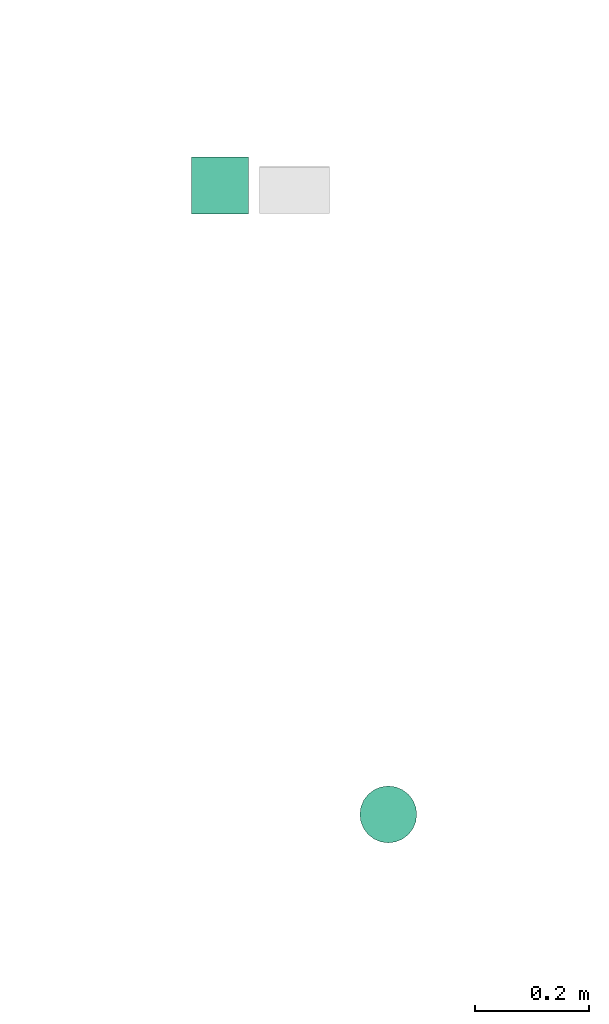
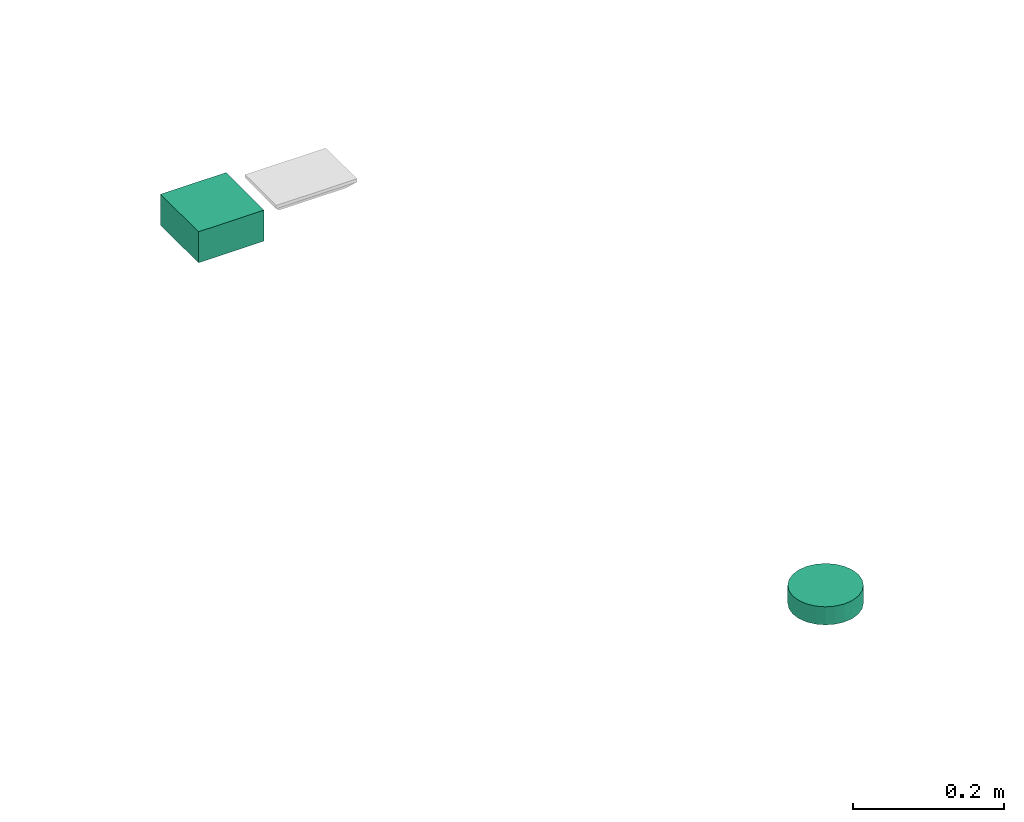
# One storey, part 7 of 14: 1 distribution control element, 1 flow terminal.
"""IFC2X3 building model written with IfcOpenShell, lengths in millimetres."""

from ifc_helpers import new_model, entity, si_unit, converted_unit, derived_unit, direction, frame, origin_with_axes, place, context, subcontext, project, spatial, open_shell, surface_model, source, transform, mapped, type_object, element, save


model = new_model("IFC2X3")

# Units and contexts
model_context = context("Model", 3, precision=0.01, world=frame((0.0, 4.29681676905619e-09, 0.0)), true_north=direction((4.01073788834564e-13, 1.0)))
plan_context = context("Plan", 3, precision=0.01, world=frame((0.0, 4.29681676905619e-09, 0.0)), true_north=direction((4.01073788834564e-13, 1.0)))
body_context = subcontext(model_context, "Body", "Model", "MODEL_VIEW")
ifc_project = project(units=[converted_unit("PLANEANGLEUNIT", "DEGREE", entity("IfcPositiveLengthMeasure", 0.0174532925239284), si_unit("PLANEANGLEUNIT", "RADIAN"), dimensions=[0, 0, 0, 0, 0, 0, 0]), si_unit("AREAUNIT", "SQUARE_METRE"), si_unit("LENGTHUNIT", "METRE", prefix="MILLI"), si_unit("MASSUNIT", "GRAM", prefix="KILO"), si_unit("POWERUNIT", "WATT"), si_unit("PRESSUREUNIT", "PASCAL"), si_unit("FORCEUNIT", "NEWTON", prefix="KILO"), si_unit("ELECTRICVOLTAGEUNIT", "VOLT"), si_unit("ELECTRICCURRENTUNIT", "AMPERE"), si_unit("THERMODYNAMICTEMPERATUREUNIT", "DEGREE_CELSIUS"), si_unit("TIMEUNIT", "SECOND"), si_unit("VOLUMEUNIT", "CUBIC_METRE"), derived_unit("LINEARVELOCITYUNIT", [(si_unit("LENGTHUNIT", "METRE"), 1), (si_unit("TIMEUNIT", "SECOND"), -1)]), derived_unit("VOLUMETRICFLOWRATEUNIT", [(si_unit("VOLUMEUNIT", "CUBIC_METRE"), 1), (si_unit("TIMEUNIT", "SECOND"), -1)]), derived_unit("THERMALTRANSMITTANCEUNIT", [(si_unit("POWERUNIT", "WATT"), 1), (si_unit("THERMODYNAMICTEMPERATUREUNIT", "KELVIN"), -1), (si_unit("AREAUNIT", "SQUARE_METRE"), -1)]), derived_unit("SOUNDPRESSUREUNIT", [(si_unit("PRESSUREUNIT", "PASCAL"), 1)])], contexts=[model_context, plan_context])

# Site, building, storey
site_placement = place(None, frame((0.0, -4.29681676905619e-09, 0.0), z_axis=(0.0, 0.0, 1.0), x_axis=(1.0, 0.0, 0.0)))
site = spatial("IfcSite", under=ifc_project, at=site_placement, Name="ENGM", CompositionType="ELEMENT")
building_placement = place(site_placement, frame((0.0, 4.29681676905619e-09, 0.0), z_axis=(0.0, 0.0, 1.0), x_axis=(1.0, 0.0, 0.0)))
building = spatial("IfcBuilding", under=site, at=building_placement, Name="TH", CompositionType="ELEMENT")
storey_placement = place(building_placement, frame((0.0, 0.0, 205200.0), z_axis=(0.0, 0.0, 1.0), x_axis=(1.0, 0.0, 0.0)))
storey = spatial("IfcBuildingStorey", under=building, at=storey_placement, Name="Nivå D + 1,2 m", CompositionType="ELEMENT", Elevation=205200.0)

# Distribution control element
alarm_type = type_object("IfcAlarmType", Name="Optisk Røykdetektor", PredefinedType="NOTDEFINED")
shared_shape_1 = source(origin_with_axes(), body_context, "Body", "SurfaceModel", [
    surface_model("IfcShellBasedSurfaceModel", [(-25.0, 43.30127, -28.9), (-35.35534, 35.35534, -28.9), (-18.0, 31.17691, -28.9), (-25.45584, 25.45584, -28.9), (-9.31749, 34.77333, -28.9), (-12.94095, 48.29629, -28.9), (0.0, 36.0, -28.9), (0.0, 50.0, -28.9), (-34.77333, 9.31749, -28.9), (-43.30127, 25.0, -28.9), (-48.29629, 12.94095, -28.9), (-36.0, 0.0, -28.9), (-50.0, 0.0, -28.9), (-31.17691, 18.0, -28.9), (9.31749, 34.77333, -28.9), (12.94095, 48.29629, -28.9), (18.0, 31.17691, -28.9), (35.35534, 35.35534, -28.9), (25.0, 43.30127, -28.9), (25.45584, 25.45584, -28.9), (31.17691, 18.0, -28.9), (34.77333, 9.31749, -28.9), (43.30127, 25.0, -28.9), (48.29629, 12.94095, -28.9), (36.0, 0.0, -28.9), (50.0, 0.0, -28.9), (-34.77333, -9.31749, -28.9), (-48.29629, -12.94095, -28.9), (-31.17691, -18.0, -28.9), (-43.30127, -25.0, -28.9), (-25.45584, -25.45584, -28.9), (-35.35534, -35.35534, -28.9), (-18.0, -31.17691, -28.9), (-25.0, -43.30127, -28.9), (-9.31749, -34.77333, -28.9), (-12.94095, -48.29629, -28.9), (0.0, -36.0, -28.9), (0.0, -50.0, -28.9), (43.30127, -25.0, -28.9), (31.17691, -18.0, -28.9), (35.35534, -35.35534, -28.9), (34.77333, -9.31749, -28.9), (48.29629, -12.94095, -28.9), (25.45584, -25.45584, -28.9), (9.31749, -34.77333, -28.9), (12.94095, -48.29629, -28.9), (18.0, -31.17691, -28.9), (25.0, -43.30127, -28.9), (-25.0, -43.30127, -29.1), (-35.35534, -35.35534, -29.1), (-18.0, -31.17691, -29.1), (-25.45584, -25.45584, -29.1), (-9.31749, -34.77333, -29.1), (-12.94095, -48.29629, -29.1), (0.0, -36.0, -29.1), (0.0, -50.0, -29.1), (-34.77333, -9.31749, -29.1), (-43.30127, -25.0, -29.1), (-48.29629, -12.94095, -29.1), (-36.0, 0.0, -29.1), (-50.0, 0.0, -29.1), (-31.17691, -18.0, -29.1), (9.31749, -34.77333, -29.1), (12.94095, -48.29629, -29.1), (18.0, -31.17691, -29.1), (35.35534, -35.35534, -29.1), (25.0, -43.30127, -29.1), (25.45584, -25.45584, -29.1), (31.17691, -18.0, -29.1), (34.77333, -9.31749, -29.1), (43.30127, -25.0, -29.1), (48.29629, -12.94095, -29.1), (36.0, 0.0, -29.1), (50.0, 0.0, -29.1), (-34.77333, 9.31749, -29.1), (-48.29629, 12.94095, -29.1), (-31.17691, 18.0, -29.1), (-43.30127, 25.0, -29.1), (-25.45584, 25.45584, -29.1), (-35.35534, 35.35534, -29.1), (-18.0, 31.17691, -29.1), (-25.0, 43.30127, -29.1), (-9.31749, 34.77333, -29.1), (-12.94095, 48.29629, -29.1), (0.0, 36.0, -29.1), (0.0, 50.0, -29.1), (43.30127, 25.0, -29.1), (31.17691, 18.0, -29.1), (35.35534, 35.35534, -29.1), (34.77333, 9.31749, -29.1), (48.29629, 12.94095, -29.1), (25.45584, 25.45584, -29.1), (9.31749, 34.77333, -29.1), (12.94095, 48.29629, -29.1), (18.0, 31.17691, -29.1), (25.0, 43.30127, -29.1), (6.47048, -24.14815, -44.9), (12.5, -21.65064, -44.9), (17.67767, -17.67767, -44.9), (24.14815, -6.47048, -44.9), (-24.14815, -6.47048, -44.9), (21.65064, -12.5, -44.9), (-21.65064, 12.5, -44.9), (0.0, -25.0, -44.9), (-12.5, -21.65064, -44.9), (-6.47048, -24.14815, -44.9), (-17.67767, -17.67767, -44.9), (-21.65064, -12.5, -44.9), (25.0, 0.0, -44.9), (24.14815, 6.47048, -44.9), (21.65064, 12.5, -44.9), (17.67767, 17.67767, -44.9), (12.5, 21.65064, -44.9), (6.47048, 24.14815, -44.9), (0.0, 25.0, -44.9), (-25.0, 0.0, -44.9), (-24.14815, 6.47048, -44.9), (-12.5, 21.65064, -44.9), (-17.67767, 17.67767, -44.9), (-6.47048, 24.14815, -44.9), (0.0, 25.0, -45.1), (6.47048, 24.14815, -45.1), (12.5, 21.65064, -45.1), (-21.65064, 12.5, -45.1), (17.67767, 17.67767, -45.1), (21.65064, 12.5, -45.1), (24.14815, 6.47048, -45.1), (-12.5, 21.65064, -45.1), (-17.67767, 17.67767, -45.1), (-6.47048, 24.14815, -45.1), (-25.0, 0.0, -45.1), (-24.14815, 6.47048, -45.1), (-24.14815, -6.47048, -45.1), (24.14815, -6.47048, -45.1), (6.47048, -24.14815, -45.1), (21.65064, -12.5, -45.1), (17.67767, -17.67767, -45.1), (12.5, -21.65064, -45.1), (-12.5, -21.65064, -45.1), (-17.67767, -17.67767, -45.1), (-21.65064, -12.5, -45.1), (0.0, -25.0, -45.1), (-6.47048, -24.14815, -45.1), (25.0, 0.0, -45.1), (-1.46739, 34.60682, -29.0), (0.0, 34.8, -29.0), (0.0, 35.0, -29.0), (-34.60682, 1.46739, -29.0), (-35.0, 0.0, -29.0), (-34.8, 0.0, -29.0), (-17.5, 30.31089, -29.0), (-18.5742, 29.23669, -29.0), (-17.4, 30.13768, -29.0), (-24.60732, -24.60732, -29.0), (-18.5742, -29.23669, -29.0), (-29.23669, -18.5742, -29.0), (34.8, 0.0, -29.0), (34.60682, -1.46739, -29.0), (35.0, 0.0, -29.0), (17.4, 30.13768, -29.0), (17.5, 30.31089, -29.0), (16.03261, 30.70407, -29.0), (30.13768, 17.4, -29.0), (30.31089, 17.5, -29.0), (29.23669, 18.5742, -29.0), (34.60682, 1.46739, -29.0), (33.61422, -9.0069, -29.0), (30.70407, -16.03261, -29.0), (-33.61422, -9.0069, -29.0), (-30.70407, -16.03261, -29.0), (-34.60682, -1.46739, -29.0), (-30.13768, -17.4, -29.0), (-30.31089, -17.5, -29.0), (-17.5, -30.31089, -29.0), (-17.4, -30.13768, -29.0), (-1.46739, -34.60682, -29.0), (0.0, -35.0, -29.0), (0.0, -34.8, -29.0), (-16.03261, -30.70407, -29.0), (-9.0069, -33.61422, -29.0), (1.46739, -34.60682, -29.0), (30.13768, -17.4, -29.0), (29.23669, -18.5742, -29.0), (30.31089, -17.5, -29.0), (24.60732, -24.60732, -29.0), (18.5742, -29.23669, -29.0), (9.0069, -33.61422, -29.0), (16.03261, -30.70407, -29.0), (-30.13768, 17.4, -29.0), (-30.31089, 17.5, -29.0), (-30.70407, 16.03261, -29.0), (17.4, -30.13768, -29.0), (17.5, -30.31089, -29.0), (-33.61422, 9.0069, -29.0), (-29.23669, 18.5742, -29.0), (-24.60732, 24.60732, -29.0), (-16.03261, 30.70407, -29.0), (-9.0069, 33.61422, -29.0), (1.46739, 34.60682, -29.0), (9.0069, 33.61422, -29.0), (18.5742, 29.23669, -29.0), (24.60732, 24.60732, -29.0), (30.70407, 16.03261, -29.0), (33.61422, 9.0069, -29.0), (23.00389, 18.55381, -38.25), (14.9, 25.80756, -38.25), (21.07178, 21.07178, -38.25), (29.66376, 1.03484, -38.25), (30.0, 0.0, -38.25), (29.8, 0.0, -38.25), (24.27051, 17.63356, -38.25), (24.68215, 16.36666, -38.25), (10.52665, 27.61906, -38.25), (28.78459, 7.71281, -38.25), (-10.52665, 27.61906, -38.25), (-23.00389, 18.55381, -38.25), (-14.9, 25.80756, -38.25), (8.32335, 28.5317, -38.25), (0.0, 29.8, -38.25), (7.71281, 28.78459, -38.25), (-8.32335, 28.5317, -38.25), (-24.68215, 16.36666, -38.25), (-28.78459, 7.71281, -38.25), (-25.80756, 14.9, -38.25), (-9.27051, 28.5317, -38.25), (-29.66376, 1.03484, -38.25), (-29.8, 0.0, -38.25), (-30.0, 0.0, -38.25), (-28.78459, -7.71281, -38.25), (-24.68215, -16.36666, -38.25), (-25.80756, -14.9, -38.25), (29.66376, -1.03484, -38.25), (-7.71281, 28.78459, -38.25), (25.80756, 14.9, -38.25), (14.9, -25.80756, -38.25), (10.52665, -27.61906, -38.25), (23.00389, -18.55381, -38.25), (28.78459, -7.71281, -38.25), (24.68215, -16.36666, -38.25), (0.0, -29.8, -38.25), (-7.71281, -28.78459, -38.25), (-8.32335, -28.5317, -38.25), (8.32335, -28.5317, -38.25), (9.27051, 28.5317, -38.25), (-29.66376, -1.03484, -38.25), (21.07178, -21.07178, -38.25), (-23.00389, -18.55381, -38.25), (-24.27051, -17.63356, -38.25), (-9.27051, -28.5317, -38.25), (-10.52665, -27.61906, -38.25), (-21.07178, -21.07178, -38.25), (-14.9, -25.80756, -38.25), (9.27051, -28.5317, -38.25), (7.71281, -28.78459, -38.25), (24.27051, -17.63356, -38.25), (25.80756, -14.9, -38.25), (-21.07178, 21.07178, -38.25), (-24.27051, 17.63356, -38.25), (33.28589, -6.39713, -29.0), (27.13526, -8.81678, -38.25), (-16.77051, -23.08263, -38.25), (-23.90544, -23.90544, -29.0), (-27.13526, -8.81678, -38.25), (-33.28589, -6.39713, -29.0), (16.77051, -23.08263, -38.25), (8.75, -32.65544, -29.0), (0.0, -28.5317, -38.25), (23.90544, -23.90544, -29.0), (-8.75, -32.65544, -29.0), (-33.28589, 6.39713, -29.0), (-27.13526, 8.81678, -38.25), (16.77051, 23.08263, -38.25), (23.90544, 23.90544, -29.0), (27.13526, 8.81678, -38.25), (33.28589, 6.39713, -29.0), (-16.77051, 23.08263, -38.25), (-8.75, 32.65544, -29.0), (0.0, 28.5317, -38.25), (-23.90544, 23.90544, -29.0), (8.75, 32.65544, -29.0), (12.4, 21.47743, -45.0), (17.53625, 17.53625, -45.0), (19.07577, 15.5299, -45.0), (20.22543, 14.69463, -45.0), (20.59905, 13.54472, -45.0), (24.66376, 1.03484, -45.0), (25.0, 0.0, -45.0), (24.8, 0.0, -45.0), (8.88673, 22.93267, -45.0), (23.95496, 6.41871, -45.0), (-8.88673, 22.93267, -45.0), (-19.07577, 15.5299, -45.0), (-12.4, 21.47743, -45.0), (6.84976, 23.77641, -45.0), (0.0, 24.8, -45.0), (6.41871, 23.95496, -45.0), (-7.72542, 23.77641, -45.0), (-6.84976, 23.77641, -45.0), (-21.47743, 12.4, -45.0), (-20.59905, 13.54472, -45.0), (-23.95496, 6.41871, -45.0), (-25.0, 0.0, -45.0), (-24.66376, 1.03484, -45.0), (-24.8, 0.0, -45.0), (-23.95496, -6.41871, -45.0), (-20.59905, -13.54472, -45.0), (-21.47743, -12.4, -45.0), (-6.41871, 23.95496, -45.0), (24.66376, -1.03484, -45.0), (21.47743, 12.4, -45.0), (12.4, -21.47743, -45.0), (8.88673, -22.93267, -45.0), (19.07577, -15.5299, -45.0), (23.95496, -6.41871, -45.0), (20.59905, -13.54472, -45.0), (0.0, -24.8, -45.0), (-6.41871, -23.95496, -45.0), (-6.84976, -23.77641, -45.0), (7.72542, -23.77641, -45.0), (6.84976, -23.77641, -45.0), (7.72542, 23.77641, -45.0), (-24.66376, -1.03484, -45.0), (17.53625, -17.53625, -45.0), (-20.22543, -14.69463, -45.0), (-19.07577, -15.5299, -45.0), (-8.88673, -22.93267, -45.0), (-7.72542, -23.77641, -45.0), (-17.53625, -17.53625, -45.0), (-12.4, -21.47743, -45.0), (6.41871, -23.95496, -45.0), (20.22543, -14.69463, -45.0), (21.47743, -12.4, -45.0), (-17.53625, 17.53625, -45.0), (-20.22543, 14.69463, -45.0), (-22.61271, -7.34732, -45.0), (-13.97542, -19.23552, -45.0), (0.0, -23.77641, -45.0), (21.83768, -9.73262, -45.0), (13.97542, -19.23552, -45.0), (23.41884, -4.86631, -45.0), (22.61271, 7.34732, -45.0), (13.97542, 19.23552, -45.0), (0.0, 23.77641, -45.0), (-21.83768, 9.73262, -45.0), (-13.97542, 19.23552, -45.0), (-23.41884, 4.86631, -45.0), (12.94095, -48.29629, 0.0), (25.0, -43.30127, 0.0), (35.35534, -35.35534, 0.0), (48.29629, -12.94095, 0.0), (-48.29629, -12.94095, 0.0), (43.30127, -25.0, 0.0), (-43.30127, 25.0, 0.0), (0.0, -50.0, 0.0), (-25.0, -43.30127, 0.0), (-12.94095, -48.29629, 0.0), (-35.35534, -35.35534, 0.0), (-43.30127, -25.0, 0.0), (50.0, 0.0, 0.0), (48.29629, 12.94095, 0.0), (43.30127, 25.0, 0.0), (35.35534, 35.35534, 0.0), (25.0, 43.30127, 0.0), (12.94095, 48.29629, 0.0), (0.0, 50.0, 0.0), (-50.0, 0.0, 0.0), (-48.29629, 12.94095, 0.0), (-25.0, 43.30127, 0.0), (-35.35534, 35.35534, 0.0), (-12.94095, 48.29629, 0.0), (0.0, 50.0, -29.0), (12.94095, 48.29629, -29.0), (25.0, 43.30127, -29.0), (-43.30127, 25.0, -29.0), (35.35534, 35.35534, -29.0), (43.30127, 25.0, -29.0), (48.29629, 12.94095, -29.0), (-25.0, 43.30127, -29.0), (-35.35534, 35.35534, -29.0), (-12.94095, 48.29629, -29.0), (-50.0, 0.0, -29.0), (-48.29629, 12.94095, -29.0), (-48.29629, -12.94095, -29.0), (48.29629, -12.94095, -29.0), (12.94095, -48.29629, -29.0), (43.30127, -25.0, -29.0), (35.35534, -35.35534, -29.0), (25.0, -43.30127, -29.0), (-25.0, -43.30127, -29.0), (-35.35534, -35.35534, -29.0), (-43.30127, -25.0, -29.0), (0.0, -50.0, -29.0), (-12.94095, -48.29629, -29.0), (50.0, 0.0, -29.0)], [open_shell([[[0, 1, 2]], [[2, 1, 3]], [[0, 2, 4]], [[5, 4, 6]], [[4, 5, 0]], [[5, 6, 7]], [[8, 9, 10]], [[11, 10, 12]], [[8, 10, 11]], [[13, 3, 9]], [[8, 13, 9]], [[9, 3, 1]], [[7, 14, 15]], [[14, 7, 6]], [[15, 14, 16]], [[17, 18, 19]], [[16, 18, 15]], [[19, 18, 16]], [[20, 21, 22]], [[20, 22, 17]], [[21, 23, 22]], [[23, 21, 24]], [[23, 24, 25]], [[20, 17, 19]], [[26, 12, 27]], [[28, 27, 29]], [[28, 26, 27]], [[30, 28, 29]], [[29, 31, 30]], [[32, 31, 33]], [[31, 32, 30]], [[32, 33, 34]], [[34, 35, 36]], [[35, 34, 33]], [[36, 35, 37]], [[38, 39, 40]], [[41, 39, 42]], [[41, 42, 25]], [[42, 39, 38]], [[39, 43, 40]], [[25, 24, 41]], [[44, 37, 45]], [[37, 44, 36]], [[44, 45, 46]], [[47, 40, 43]], [[47, 46, 45]], [[47, 43, 46]], [[26, 11, 12]], [[48, 49, 50]], [[50, 49, 51]], [[48, 50, 52]], [[53, 52, 54]], [[52, 53, 48]], [[53, 54, 55]], [[56, 57, 58]], [[59, 58, 60]], [[56, 58, 59]], [[61, 51, 57]], [[56, 61, 57]], [[57, 51, 49]], [[55, 62, 63]], [[62, 55, 54]], [[63, 62, 64]], [[65, 66, 67]], [[64, 66, 63]], [[67, 66, 64]], [[68, 69, 70]], [[68, 70, 65]], [[69, 71, 70]], [[71, 69, 72]], [[71, 72, 73]], [[68, 65, 67]], [[74, 60, 75]], [[76, 75, 77]], [[76, 74, 75]], [[78, 76, 77]], [[77, 79, 78]], [[80, 79, 81]], [[79, 80, 78]], [[80, 81, 82]], [[82, 83, 84]], [[83, 82, 81]], [[84, 83, 85]], [[86, 87, 88]], [[89, 87, 90]], [[89, 90, 73]], [[90, 87, 86]], [[87, 91, 88]], [[73, 72, 89]], [[92, 85, 93]], [[85, 92, 84]], [[92, 93, 94]], [[95, 88, 91]], [[95, 94, 93]], [[95, 91, 94]], [[74, 59, 60]], [[11, 59, 8]], [[8, 74, 13]], [[2, 3, 78]], [[76, 3, 13]], [[4, 2, 80]], [[74, 76, 13]], [[8, 59, 74]], [[84, 6, 82]], [[4, 80, 82]], [[80, 2, 78]], [[3, 76, 78]], [[4, 82, 6]], [[14, 92, 16]], [[16, 94, 19]], [[21, 20, 87]], [[91, 20, 19]], [[24, 21, 89]], [[92, 94, 16]], [[14, 84, 92]], [[21, 87, 89]], [[87, 20, 91]], [[19, 94, 91]], [[24, 89, 72]], [[6, 84, 14]], [[24, 72, 41]], [[41, 69, 39]], [[46, 43, 67]], [[68, 43, 39]], [[44, 46, 64]], [[69, 68, 39]], [[41, 72, 69]], [[54, 36, 62]], [[44, 64, 62]], [[64, 46, 67]], [[43, 68, 67]], [[44, 62, 36]], [[34, 52, 32]], [[32, 50, 30]], [[26, 28, 61]], [[51, 28, 30]], [[11, 26, 56]], [[52, 50, 32]], [[34, 54, 52]], [[26, 61, 56]], [[61, 28, 51]], [[30, 50, 51]], [[11, 56, 59]], [[36, 54, 34]], [[58, 27, 60]], [[57, 29, 58]], [[33, 49, 48]], [[57, 49, 31]], [[35, 48, 53]], [[58, 29, 27]], [[27, 12, 60]], [[35, 33, 48]], [[31, 49, 33]], [[31, 29, 57]], [[37, 35, 53]], [[53, 55, 37]], [[63, 45, 55]], [[66, 47, 63]], [[38, 65, 70]], [[66, 65, 40]], [[42, 70, 71]], [[66, 40, 47]], [[47, 45, 63]], [[25, 42, 71]], [[38, 70, 42]], [[38, 40, 65]], [[73, 25, 71]], [[55, 45, 37]], [[90, 23, 73]], [[86, 22, 90]], [[18, 88, 95]], [[86, 88, 17]], [[15, 95, 93]], [[90, 22, 23]], [[23, 25, 73]], [[15, 18, 95]], [[17, 88, 18]], [[17, 22, 86]], [[7, 15, 93]], [[93, 85, 7]], [[83, 5, 85]], [[81, 0, 83]], [[9, 79, 77]], [[81, 79, 1]], [[10, 77, 75]], [[81, 1, 0]], [[0, 5, 83]], [[12, 10, 75]], [[9, 77, 10]], [[9, 1, 79]], [[60, 12, 75]], [[85, 5, 7]], [[96, 97, 98]], [[96, 98, 99]], [[96, 99, 100]], [[99, 98, 101]], [[102, 100, 99]], [[103, 104, 105]], [[103, 96, 104]], [[106, 100, 107]], [[106, 104, 96]], [[100, 106, 96]], [[99, 108, 102]], [[109, 110, 111]], [[109, 111, 112]], [[112, 113, 114]], [[109, 112, 102]], [[102, 112, 114]], [[115, 102, 116]], [[100, 102, 115]], [[102, 117, 118]], [[117, 102, 119]], [[114, 119, 102]], [[102, 108, 109]], [[120, 121, 122]], [[123, 120, 122]], [[124, 125, 126]], [[124, 126, 122]], [[123, 122, 126]], [[127, 123, 128]], [[123, 127, 129]], [[123, 130, 131]], [[123, 129, 120]], [[123, 132, 130]], [[123, 126, 133]], [[132, 123, 133]], [[134, 133, 135]], [[136, 137, 134]], [[136, 134, 135]], [[138, 133, 134]], [[132, 139, 140]], [[132, 133, 139]], [[138, 141, 142]], [[139, 133, 138]], [[134, 141, 138]], [[133, 126, 143]], [[132, 100, 130]], [[140, 107, 132]], [[104, 139, 138]], [[140, 139, 106]], [[105, 138, 142]], [[132, 107, 100]], [[100, 115, 130]], [[105, 104, 138]], [[106, 139, 104]], [[106, 107, 140]], [[103, 105, 142]], [[142, 141, 103]], [[134, 96, 141]], [[137, 97, 134]], [[101, 136, 135]], [[137, 136, 98]], [[99, 135, 133]], [[137, 98, 97]], [[97, 96, 134]], [[108, 99, 133]], [[101, 135, 99]], [[101, 98, 136]], [[143, 108, 133]], [[141, 96, 103]], [[126, 109, 143]], [[125, 110, 126]], [[112, 124, 122]], [[125, 124, 111]], [[113, 122, 121]], [[126, 110, 109]], [[109, 108, 143]], [[113, 112, 122]], [[111, 124, 112]], [[111, 110, 125]], [[114, 113, 121]], [[121, 120, 114]], [[129, 119, 120]], [[127, 117, 129]], [[102, 128, 123]], [[127, 128, 118]], [[116, 123, 131]], [[127, 118, 117]], [[117, 119, 129]], [[115, 116, 131]], [[102, 123, 116]], [[102, 118, 128]], [[130, 115, 131]], [[120, 119, 114]], [[144, 145, 146]], [[147, 148, 149]], [[150, 151, 152]], [[153, 154, 155]], [[156, 157, 158]], [[159, 160, 161]], [[162, 163, 164]], [[156, 158, 165]], [[166, 157, 167]], [[168, 169, 170]], [[170, 149, 148]], [[171, 169, 172]], [[173, 174, 154]], [[175, 176, 177]], [[174, 173, 178]], [[155, 171, 172]], [[179, 175, 178]], [[180, 177, 176]], [[181, 182, 183]], [[181, 183, 167]], [[184, 182, 185]], [[186, 187, 180]], [[188, 189, 190]], [[191, 192, 185]], [[191, 187, 192]], [[193, 147, 190]], [[188, 194, 189]], [[195, 194, 151]], [[152, 196, 150]], [[197, 196, 144]], [[145, 198, 146]], [[199, 198, 161]], [[159, 200, 160]], [[201, 200, 164]], [[162, 202, 163]], [[203, 202, 165]], [[204, 205, 206]], [[207, 208, 209]], [[204, 210, 211]], [[205, 204, 212]], [[213, 207, 211]], [[214, 215, 216]], [[217, 218, 219]], [[218, 217, 220]], [[221, 222, 223]], [[220, 214, 224]], [[225, 226, 227]], [[228, 229, 230]], [[209, 208, 231]], [[218, 220, 232]], [[213, 211, 233]], [[234, 235, 236]], [[237, 238, 231]], [[239, 240, 241]], [[241, 242, 239]], [[243, 212, 217]], [[227, 226, 244]], [[234, 236, 245]], [[229, 246, 247]], [[241, 248, 249]], [[250, 246, 251]], [[228, 244, 229]], [[235, 252, 242]], [[239, 242, 253]], [[236, 238, 254]], [[238, 237, 255]], [[251, 246, 249]], [[216, 215, 256]], [[215, 221, 257]], [[222, 221, 225]], [[208, 158, 258]], [[183, 259, 258]], [[260, 261, 247]], [[172, 262, 247]], [[263, 227, 262]], [[192, 252, 264]], [[260, 248, 173]], [[261, 260, 173]], [[252, 265, 266]], [[227, 263, 148]], [[172, 263, 262]], [[258, 259, 208]], [[254, 267, 264]], [[268, 173, 248]], [[252, 192, 265]], [[192, 264, 267]], [[267, 254, 183]], [[259, 183, 254]], [[268, 266, 176]], [[265, 176, 266]], [[248, 266, 268]], [[172, 247, 261]], [[227, 148, 269]], [[189, 270, 269]], [[271, 272, 210]], [[163, 273, 210]], [[274, 208, 273]], [[150, 224, 275]], [[271, 243, 160]], [[272, 271, 160]], [[224, 276, 277]], [[208, 274, 158]], [[163, 274, 273]], [[269, 270, 227]], [[257, 278, 275]], [[279, 160, 243]], [[224, 150, 276]], [[150, 275, 278]], [[278, 257, 189]], [[270, 189, 257]], [[279, 277, 146]], [[276, 146, 277]], [[243, 277, 279]], [[163, 210, 272]], [[171, 230, 228]], [[168, 228, 226]], [[179, 240, 251]], [[174, 251, 250]], [[153, 250, 230]], [[168, 171, 228]], [[226, 149, 168]], [[251, 174, 179]], [[174, 250, 153]], [[230, 171, 153]], [[240, 179, 177]], [[177, 239, 240]], [[184, 245, 234]], [[191, 234, 253]], [[156, 209, 237]], [[166, 237, 255]], [[181, 255, 245]], [[239, 186, 253]], [[186, 191, 253]], [[177, 186, 239]], [[184, 181, 245]], [[191, 184, 234]], [[181, 166, 255]], [[166, 156, 237]], [[162, 233, 213]], [[203, 213, 209]], [[199, 219, 205]], [[159, 205, 206]], [[201, 206, 233]], [[203, 162, 213]], [[209, 156, 203]], [[205, 159, 199]], [[159, 206, 201]], [[233, 162, 201]], [[219, 199, 145]], [[145, 218, 219]], [[195, 256, 216]], [[152, 216, 232]], [[149, 226, 222]], [[193, 222, 223]], [[188, 223, 256]], [[218, 197, 232]], [[197, 152, 232]], [[145, 197, 218]], [[195, 188, 256]], [[152, 195, 216]], [[188, 193, 223]], [[193, 149, 222]], [[215, 216, 256]], [[221, 222, 225]], [[225, 227, 226]], [[257, 221, 215]], [[216, 215, 214]], [[212, 204, 205]], [[220, 218, 232]], [[218, 220, 217]], [[217, 212, 243]], [[233, 211, 213]], [[208, 207, 209]], [[237, 238, 255]], [[252, 235, 242]], [[218, 217, 219]], [[227, 244, 226]], [[222, 221, 223]], [[228, 229, 244]], [[239, 253, 242]], [[246, 251, 249]], [[249, 248, 241]], [[231, 238, 237]], [[208, 209, 231]], [[251, 246, 250]], [[254, 238, 236]], [[236, 234, 245]], [[214, 220, 224]], [[242, 241, 239]], [[239, 241, 240]], [[246, 229, 247]], [[230, 229, 228]], [[234, 236, 235]], [[205, 204, 206]], [[204, 211, 210]], [[213, 211, 207]], [[280, 281, 282]], [[282, 283, 284]], [[285, 286, 287]], [[280, 282, 288]], [[289, 285, 284]], [[290, 291, 292]], [[293, 294, 295]], [[290, 296, 297]], [[294, 293, 297]], [[298, 299, 300]], [[301, 302, 303]], [[304, 305, 306]], [[294, 297, 307]], [[308, 287, 286]], [[289, 284, 309]], [[310, 311, 312]], [[313, 314, 308]], [[315, 316, 317]], [[311, 318, 319]], [[293, 320, 288]], [[301, 303, 321]], [[310, 312, 322]], [[323, 305, 324]], [[325, 317, 326]], [[327, 324, 328]], [[304, 321, 305]], [[317, 319, 315]], [[315, 319, 329]], [[312, 314, 330]], [[331, 314, 313]], [[328, 324, 325]], [[292, 291, 332]], [[291, 299, 333]], [[300, 299, 302]], [[262, 301, 334]], [[334, 323, 247]], [[248, 335, 326]], [[301, 262, 227]], [[334, 247, 262]], [[260, 323, 335]], [[266, 248, 326]], [[336, 252, 266]], [[252, 336, 318]], [[323, 260, 247]], [[248, 260, 335]], [[254, 337, 259]], [[318, 264, 252]], [[338, 254, 264]], [[339, 286, 208]], [[264, 318, 338]], [[259, 339, 208]], [[338, 330, 254]], [[266, 326, 336]], [[259, 337, 339]], [[337, 254, 330]], [[273, 286, 340]], [[340, 283, 210]], [[243, 341, 320]], [[286, 273, 208]], [[340, 210, 273]], [[271, 283, 341]], [[277, 243, 320]], [[342, 224, 277]], [[224, 342, 296]], [[283, 271, 210]], [[243, 271, 341]], [[257, 343, 270]], [[296, 275, 224]], [[344, 257, 275]], [[345, 301, 227]], [[275, 296, 344]], [[270, 345, 227]], [[344, 333, 257]], [[277, 320, 342]], [[270, 343, 345]], [[343, 257, 333]], [[230, 306, 304]], [[228, 304, 303]], [[240, 316, 328]], [[251, 328, 327]], [[250, 327, 306]], [[228, 230, 304]], [[303, 226, 228]], [[328, 251, 240]], [[251, 327, 250]], [[306, 230, 250]], [[316, 240, 239]], [[239, 315, 316]], [[245, 322, 310]], [[234, 310, 329]], [[209, 287, 313]], [[237, 313, 331]], [[255, 331, 322]], [[315, 253, 329]], [[253, 234, 329]], [[239, 253, 315]], [[255, 322, 245]], [[234, 245, 310]], [[331, 255, 237]], [[237, 209, 313]], [[233, 309, 289]], [[213, 289, 287]], [[219, 295, 280]], [[205, 280, 281]], [[206, 281, 309]], [[213, 233, 289]], [[287, 209, 213]], [[280, 205, 219]], [[205, 281, 206]], [[309, 233, 206]], [[295, 219, 218]], [[218, 294, 295]], [[256, 332, 292]], [[216, 292, 307]], [[226, 303, 300]], [[222, 300, 298]], [[223, 298, 332]], [[294, 232, 307]], [[232, 216, 307]], [[218, 232, 294]], [[223, 332, 256]], [[216, 256, 292]], [[298, 223, 222]], [[222, 226, 300]], [[346, 347, 348]], [[346, 348, 349]], [[346, 349, 350]], [[349, 348, 351]], [[352, 350, 349]], [[353, 354, 355]], [[353, 346, 354]], [[356, 350, 357]], [[356, 354, 346]], [[350, 356, 346]], [[349, 358, 352]], [[359, 360, 361]], [[359, 361, 362]], [[362, 363, 364]], [[359, 362, 352]], [[352, 362, 364]], [[365, 352, 366]], [[350, 352, 365]], [[352, 367, 368]], [[367, 352, 369]], [[364, 369, 352]], [[352, 358, 359]], [[370, 371, 372]], [[373, 370, 372]], [[374, 375, 376]], [[374, 376, 372]], [[373, 372, 376]], [[377, 373, 378]], [[373, 377, 379]], [[373, 380, 381]], [[373, 379, 370]], [[373, 382, 380]], [[373, 376, 383]], [[382, 373, 383]], [[384, 383, 385]], [[386, 387, 384]], [[386, 384, 385]], [[388, 383, 384]], [[382, 389, 390]], [[382, 383, 389]], [[388, 391, 392]], [[389, 383, 388]], [[384, 391, 388]], [[383, 376, 393]], [[382, 350, 380]], [[390, 357, 382]], [[354, 389, 388]], [[390, 389, 356]], [[355, 388, 392]], [[382, 357, 350]], [[350, 365, 380]], [[355, 354, 388]], [[356, 389, 354]], [[356, 357, 390]], [[353, 355, 392]], [[392, 391, 353]], [[384, 346, 391]], [[387, 347, 384]], [[351, 386, 385]], [[387, 386, 348]], [[349, 385, 383]], [[387, 348, 347]], [[347, 346, 384]], [[358, 349, 383]], [[351, 385, 349]], [[351, 348, 386]], [[393, 358, 383]], [[391, 346, 353]], [[376, 359, 393]], [[375, 360, 376]], [[362, 374, 372]], [[375, 374, 361]], [[363, 372, 371]], [[376, 360, 359]], [[359, 358, 393]], [[363, 362, 372]], [[361, 374, 362]], [[361, 360, 375]], [[364, 363, 371]], [[371, 370, 364]], [[369, 370, 379]], [[367, 379, 377]], [[352, 373, 381]], [[366, 381, 380]], [[379, 367, 369]], [[367, 377, 378]], [[367, 378, 368]], [[368, 378, 352]], [[352, 378, 373]], [[352, 381, 366]], [[380, 365, 366]], [[370, 369, 364]]])]),
])
distribution_control_element_placement = place(storey_placement, frame((905592.90568, 482009.27358, 4880.29045999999), z_axis=(0.0, 0.0, 1.0), x_axis=(1.0, 0.0, 0.0)))
element("IfcDistributionControlElement", 1, at=distribution_control_element_placement, inside=storey, type_object=alarm_type, Name="Optisk Røykdetektor", context=body_context, shape_type="MappedRepresentation", body=[
    mapped(shared_shape_1, transform((0.0, 0.0, 0.0), scale=1.0)),
])

# Flow terminal
electric_appliance_type = type_object("IfcElectricApplianceType", Name="Motorstyrt ventil", PredefinedType="NOTDEFINED")
shared_shape_2 = source(origin_with_axes(), body_context, "Body", "SurfaceModel", [
    surface_model("IfcShellBasedSurfaceModel", [(50.0, -50.0, 50.0), (50.0, 50.0, 50.0), (-50.0, 50.0, 50.0), (-50.0, -50.0, 50.0), (-50.0, -50.0, 0.0), (-50.0, 50.0, 0.0), (50.0, 50.0, 0.0), (50.0, -50.0, 0.0)], [open_shell([[[0, 1, 2]], [[2, 3, 0]], [[4, 5, 6]], [[6, 7, 4]], [[2, 1, 6]], [[6, 5, 2]], [[3, 2, 5]], [[5, 4, 3]], [[0, 3, 4]], [[4, 7, 0]], [[1, 0, 7]], [[7, 6, 1]]])]),
])
flow_terminal_placement = place(storey_placement, frame((905296.80367, 483115.75179, 4880.29045999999), z_axis=(0.0, 0.0, 1.0), x_axis=(0.0, 1.0, 0.0)))
element("IfcFlowTerminal", 2, at=flow_terminal_placement, inside=storey, type_object=electric_appliance_type, Name="Motorstyrt ventil", context=body_context, shape_type="MappedRepresentation", body=[
    mapped(shared_shape_2, transform((0.0, 0.0, 0.0), scale=1.0)),
])

save(model, "model.ifc")
